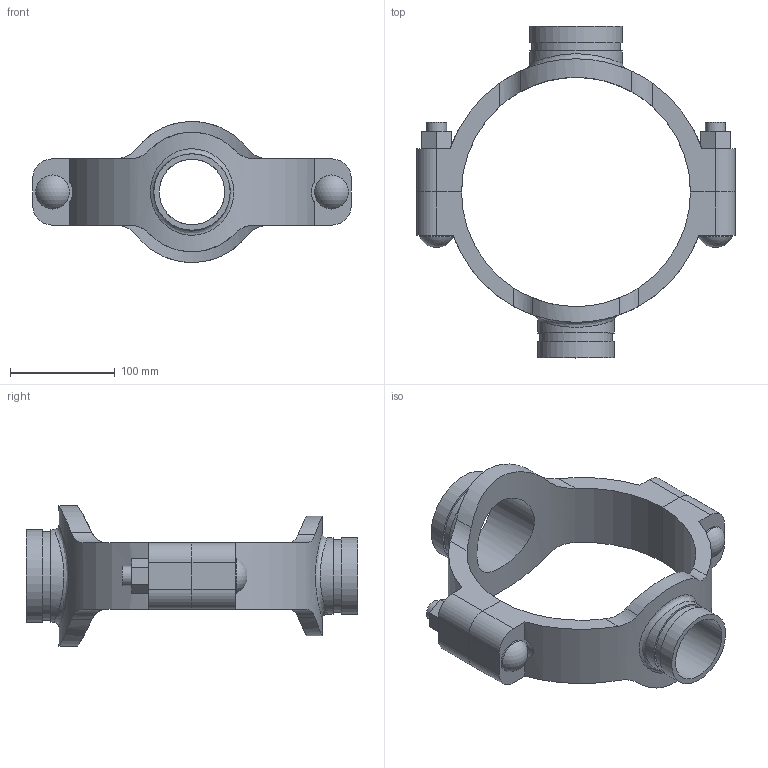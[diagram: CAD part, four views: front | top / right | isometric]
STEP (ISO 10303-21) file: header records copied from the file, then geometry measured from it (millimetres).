
FILE_DESCRIPTION(/* description */ ('VIC MECH-T BRANCH OUTLET CROSS STYLE 920N (GRVD)','CAx-IF Rec.Pracs.---Representation and Presentation of Product Manufacturing Information (PMI)---4.0---2014-10-13'),/* implementation_level */ '2;1');
FILE_NAME(/* name */ 'C:\Users\Vjadhav\AppData\Roaming\Autodesk\ApplicationPlugins\Back Up\Victaulic_IPS_Mechanical-Cross Outlet_Style 920N (OGS)\Victaulic_IPS_Mechanical-Cross Outlet_08.0x03.0x02.5 (200x80x65).stp',/* time_stamp */ '2020-08-06T19:45:57+05:00',/* author */ ('Vjadhav'),/* organization */ ('Victaulic'),/* preprocessor_version */ 'ST-DEVELOPER v17.2',/* originating_system */ 'Autodesk Inventor 2019',/* authorisation */ '');
FILE_SCHEMA (('AP242_MANAGED_MODEL_BASED_3D_ENGINEERING_MIM_LF { 1 0 10303 442 1 1 4 }'));
Length unit declared in the file: inch
Products named in the file (3): 920NG-08.0x03.0x02.5; 920G-08.0x03.0; 920G-08.0x02.5
Assembly tree (2 placements, depth 2):
  920NG-08.0x03.0x02.5
    920G-08.0x03.0
    920G-08.0x02.5
Bounding box: 304.8 x 317.5 x 134.87 mm (x, y, z)
Volume: 1163124.7 mm3; surface area: 219885.7 mm2
Topology: 2 solids, 2 shells, 108 faces, 274 edges, 186 vertices
Faces by surface type: plane 54, cylinder 50, sphere 2, bspline 2
Full cylindrical faces by diameter (mm): 19.05 x4, 32.537 x2, 62.738 x1, 69.088 x1, 73.025 x2, 77.787 x1, 84.938 x1, 88.9 x2
Entity records: 4366 total; most frequent: CARTESIAN_POINT 1485, DIRECTION 552, ORIENTED_EDGE 548, EDGE_CURVE 274, AXIS2_PLACEMENT_3D 201, VERTEX_POINT 186, LINE 150, VECTOR 150
